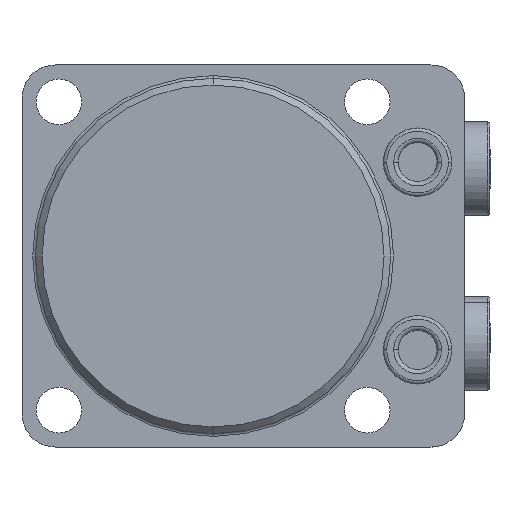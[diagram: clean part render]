
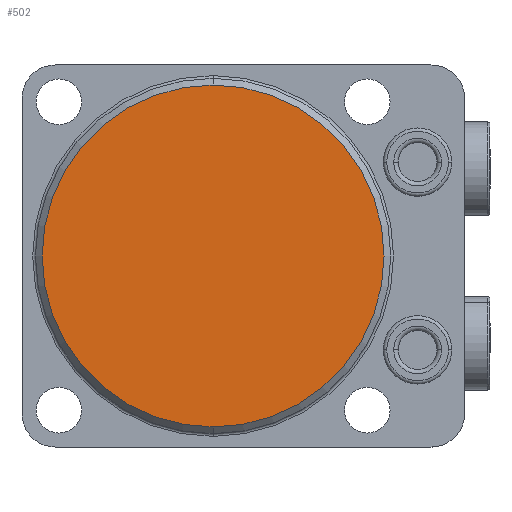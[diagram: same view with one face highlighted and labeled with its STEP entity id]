
A CAD part, front view. The second image highlights one B-rep face of the part: STEP entity #502.
In plain terms, the highlighted planar face has unit normal (0, -1, 0) as drawn and (0, 1, 0) by its records, which use the part's own axes.
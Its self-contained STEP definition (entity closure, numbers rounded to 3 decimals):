
#220=PLANE('',#3308);
#502=ADVANCED_FACE('',(#710),#220,.T.);
#710=FACE_OUTER_BOUND('',#898,.F.);
#898=EDGE_LOOP('',(#1901,#1902));
#1901=ORIENTED_EDGE('',*,*,#2756,.T.);
#1902=ORIENTED_EDGE('',*,*,#2695,.T.);
#2337=VERTEX_POINT('',#5133);
#2338=VERTEX_POINT('',#5134);
#2695=EDGE_CURVE('',#2337,#2338,#2956,.T.);
#2756=EDGE_CURVE('',#2338,#2337,#2978,.T.);
#2956=CIRCLE('',#3272,25.5);
#2978=CIRCLE('',#3307,25.5);
#3272=AXIS2_PLACEMENT_3D('',#5132,#4043,#4044);
#3307=AXIS2_PLACEMENT_3D('',#5262,#4147,#4148);
#3308=AXIS2_PLACEMENT_3D('',#5263,#4149,#4150);
#4043=DIRECTION('',(0.,-1.,0.));
#4044=DIRECTION('',(0.,0.,1.));
#4147=DIRECTION('',(0.,-1.,0.));
#4148=DIRECTION('',(0.,0.,1.));
#4149=DIRECTION('',(0.,1.,0.));
#4150=DIRECTION('',(0.,0.,1.));
#5132=CARTESIAN_POINT('',(0.,0.,0.));
#5133=CARTESIAN_POINT('',(0.,0.,-25.5));
#5134=CARTESIAN_POINT('',(0.,0.,25.5));
#5262=CARTESIAN_POINT('',(0.,0.,0.));
#5263=CARTESIAN_POINT('',(-28.5,0.,28.5));
